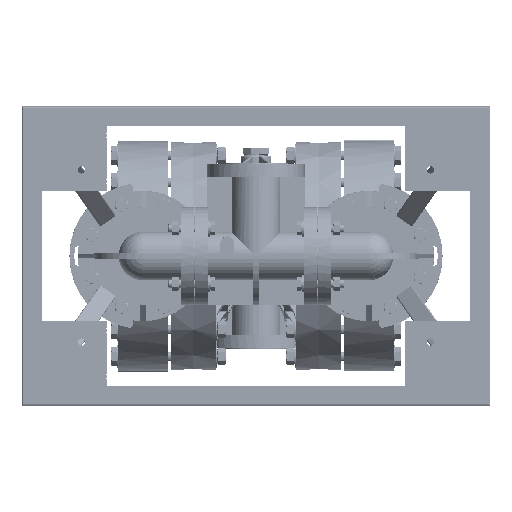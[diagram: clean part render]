
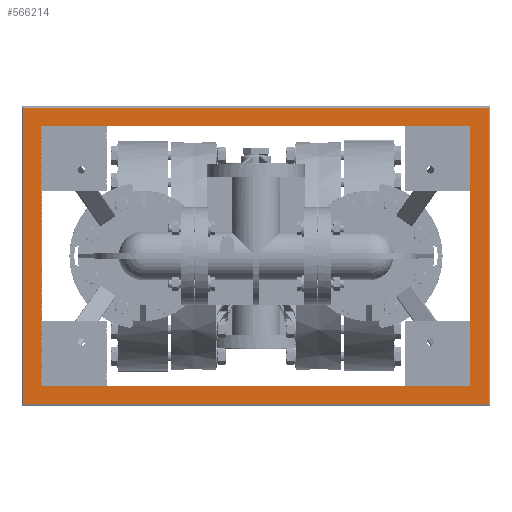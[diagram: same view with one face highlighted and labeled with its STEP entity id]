
A CAD part, front view. The second image highlights one B-rep face of the part: STEP entity #566214.
In plain terms, the highlighted planar face has unit normal (0, -1, 0).
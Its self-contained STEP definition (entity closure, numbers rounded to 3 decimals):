
#160572=CARTESIAN_POINT('',(-17.89,-26.434,-11.39));
#160605=DIRECTION('',(1.,0.,0.));
#160606=VECTOR('',#160605,35.78);
#160607=CARTESIAN_POINT('',(-17.89,-26.434,-11.39));
#160608=LINE('',#160607,#160606);
#160609=CARTESIAN_POINT('',(17.89,-26.434,-11.39));
#160646=DIRECTION('',(0.,0.,-1.));
#160647=VECTOR('',#160646,22.78);
#160648=CARTESIAN_POINT('',(-17.89,-26.434,11.39));
#160649=LINE('',#160648,#160647);
#160654=DIRECTION('',(-1.,0.,0.));
#160655=VECTOR('',#160654,35.78);
#160656=CARTESIAN_POINT('',(17.89,-26.434,11.39));
#160657=LINE('',#160656,#160655);
#160728=DIRECTION('',(-1.,0.,0.));
#160729=VECTOR('',#160728,33.);
#160730=CARTESIAN_POINT('',(16.5,-26.434,10.));
#160731=LINE('',#160730,#160729);
#160732=DIRECTION('',(0.,0.,-1.));
#160733=VECTOR('',#160732,20.);
#160734=CARTESIAN_POINT('',(-16.5,-26.434,10.));
#160735=LINE('',#160734,#160733);
#160736=DIRECTION('',(1.,0.,0.));
#160737=VECTOR('',#160736,33.);
#160738=CARTESIAN_POINT('',(-16.5,-26.434,-10.));
#160739=LINE('',#160738,#160737);
#160740=DIRECTION('',(0.,0.,1.));
#160741=VECTOR('',#160740,20.);
#160742=CARTESIAN_POINT('',(16.5,-26.434,-10.));
#160743=LINE('',#160742,#160741);
#160748=DIRECTION('',(0.,0.,1.));
#160749=VECTOR('',#160748,22.78);
#160750=CARTESIAN_POINT('',(17.89,-26.434,-11.39));
#160751=LINE('',#160750,#160749);
#374804=CARTESIAN_POINT('',(17.89,-26.434,11.39));
#374805=CARTESIAN_POINT('',(-17.89,-26.434,11.39));
#374806=VERTEX_POINT('',#374804);
#374807=VERTEX_POINT('',#374805);
#374812=VERTEX_POINT('',#160572);
#374814=VERTEX_POINT('',#160609);
#374836=CARTESIAN_POINT('',(16.5,-26.434,10.));
#374837=CARTESIAN_POINT('',(-16.5,-26.434,10.));
#374838=VERTEX_POINT('',#374836);
#374839=VERTEX_POINT('',#374837);
#374840=CARTESIAN_POINT('',(-16.5,-26.434,-10.));
#374841=CARTESIAN_POINT('',(16.5,-26.434,-10.));
#374842=VERTEX_POINT('',#374840);
#374843=VERTEX_POINT('',#374841);
#566192=CARTESIAN_POINT('',(0.,-26.434,0.));
#566193=DIRECTION('',(0.,1.,0.));
#566194=DIRECTION('',(-1.,0.,0.));
#566195=AXIS2_PLACEMENT_3D('',#566192,#566193,#566194);
#566196=PLANE('',#566195);
#566197=ORIENTED_EDGE('',*,*,#566183,.F.);
#566199=ORIENTED_EDGE('',*,*,#566198,.F.);
#566200=ORIENTED_EDGE('',*,*,#566156,.F.);
#566201=ORIENTED_EDGE('',*,*,#566171,.F.);
#566202=EDGE_LOOP('',(#566197,#566199,#566200,#566201));
#566203=FACE_OUTER_BOUND('',#566202,.F.);
#566205=ORIENTED_EDGE('',*,*,#566204,.T.);
#566207=ORIENTED_EDGE('',*,*,#566206,.T.);
#566209=ORIENTED_EDGE('',*,*,#566208,.T.);
#566211=ORIENTED_EDGE('',*,*,#566210,.T.);
#566212=EDGE_LOOP('',(#566205,#566207,#566209,#566211));
#566213=FACE_BOUND('',#566212,.F.);
#566156=EDGE_CURVE('',#374812,#374814,#160608,.T.);
#566171=EDGE_CURVE('',#374807,#374812,#160649,.T.);
#566183=EDGE_CURVE('',#374806,#374807,#160657,.T.);
#566198=EDGE_CURVE('',#374814,#374806,#160751,.T.);
#566204=EDGE_CURVE('',#374838,#374839,#160731,.T.);
#566206=EDGE_CURVE('',#374839,#374842,#160735,.T.);
#566208=EDGE_CURVE('',#374842,#374843,#160739,.T.);
#566210=EDGE_CURVE('',#374843,#374838,#160743,.T.);
#566214=ADVANCED_FACE('',(#566203,#566213),#566196,.F.);
